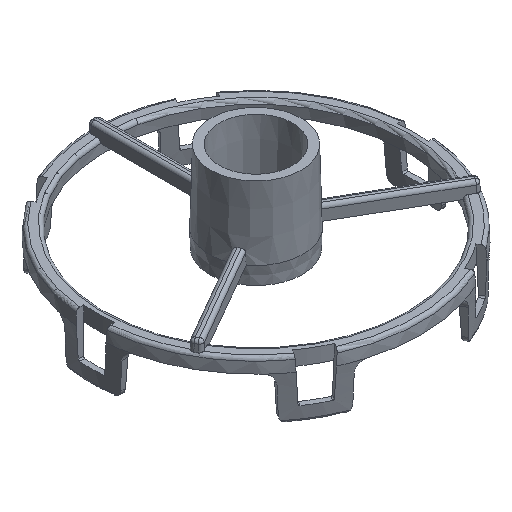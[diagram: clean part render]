
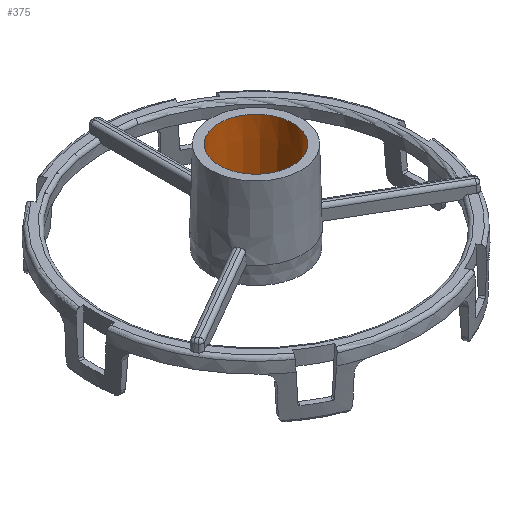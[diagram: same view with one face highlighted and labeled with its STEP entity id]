
A CAD part, isometric view. The second image highlights one B-rep face of the part: STEP entity #375.
In plain terms, the highlighted conical face has half-angle 1.5 degrees and reference radius 5 mm.
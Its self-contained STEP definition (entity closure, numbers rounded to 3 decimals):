
#375=ADVANCED_FACE('',(#801,#802),#803,.F.);
#801=FACE_BOUND('',#1287,.T.);
#802=FACE_OUTER_BOUND('',#1288,.T.);
#803=CONICAL_SURFACE('',#1289,5.0,0.026);
#1287=EDGE_LOOP('',(#2390));
#1288=EDGE_LOOP('',(#2391));
#1289=AXIS2_PLACEMENT_3D('',#2392,#2393,#2394);
#2390=ORIENTED_EDGE('',*,*,#3521,.F.);
#2391=ORIENTED_EDGE('',*,*,#3524,.F.);
#2392=CARTESIAN_POINT('',(0.0,0.0,27.68));
#2393=DIRECTION('',(-0.0,-0.0,1.0));
#2394=DIRECTION('',(1.0,0.0,0.0));
#3521=EDGE_CURVE('',#4420,#4420,#4421,.T.);
#3524=EDGE_CURVE('',#4425,#4425,#4426,.T.);
#4420=VERTEX_POINT('',#6707);
#4421=CIRCLE('',#6708,4.957);
#4425=VERTEX_POINT('',#6712);
#4426=CIRCLE('',#6713,5.27);
#6707=CARTESIAN_POINT('',(4.957,0.0,26.022));
#6708=AXIS2_PLACEMENT_3D('',#7490,#7491,#7492);
#6712=CARTESIAN_POINT('',(5.27,0.0,38.0));
#6713=AXIS2_PLACEMENT_3D('',#7496,#7497,#7498);
#7490=CARTESIAN_POINT('',(0.0,0.0,26.022));
#7491=DIRECTION('',(0.0,0.0,1.0));
#7492=DIRECTION('',(-1.0,0.0,0.0));
#7496=CARTESIAN_POINT('',(0.0,0.0,38.0));
#7497=DIRECTION('',(0.0,0.0,-1.0));
#7498=DIRECTION('',(1.0,0.0,0.0));
